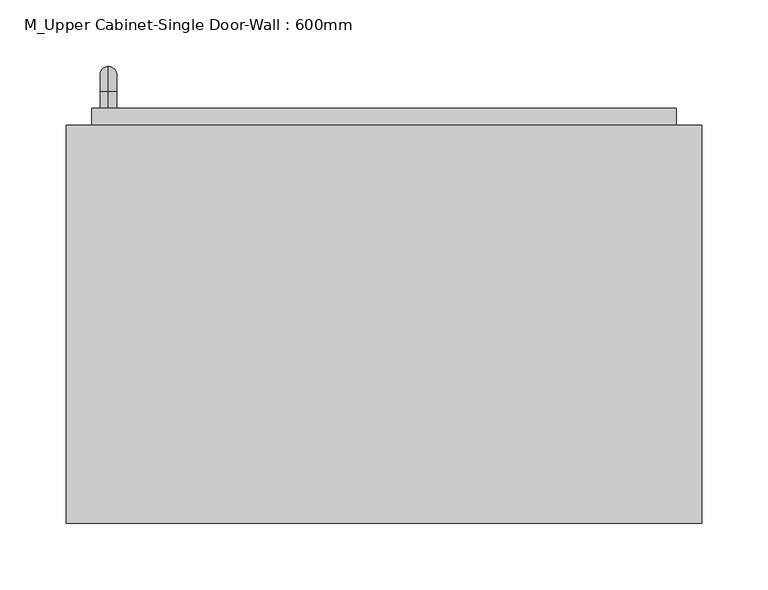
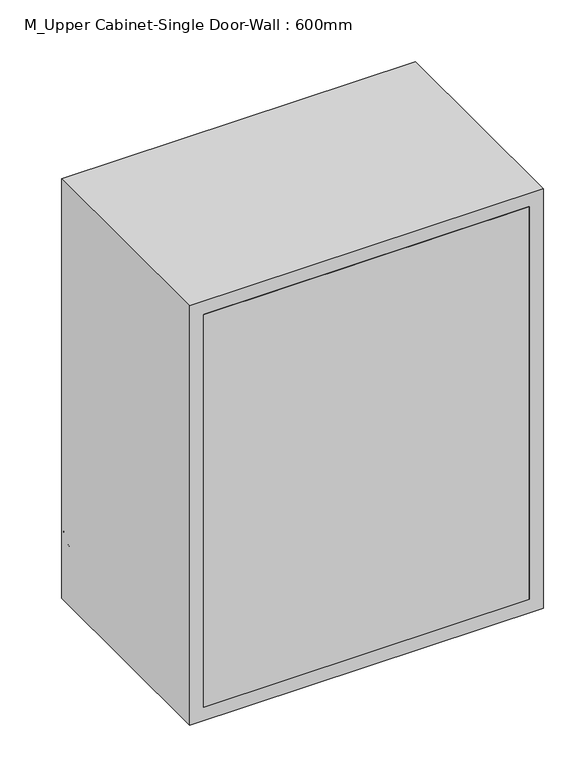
"""IFC4 building model written with IfcOpenShell, lengths in millimetres: furniture geometry, M_Upper Cabinet-Single Door-Wall : 600mm."""

from ifc_helpers import new_model, si_unit, point, frame, origin, place, context, project, spatial, polyline, circle_curve, ellipse_curve, trimmed, outline, extrude, source, transform, mapped, element, save
from ifc_brep_helpers import plane_surface, cylinder_surface, revolved_surface, advanced_brep


def m_upper_cabinet_single_door_wall_600mm_471400de(model_context):
    return source(origin(), model_context, "Body", "SolidModel", [
        advanced_brep(
        [(-177.9788372, 382.7, 1546.05), (-177.9788372, 382.7, 1558.75), (-177.9788372, 395.4, 1546.05), (-177.9788372, 395.4, 1558.75), (-177.9788372, 414.45, 1539.7), (-177.9788372, 401.75, 1539.7), (-177.9788372, 401.75, 1463.5), (-177.9788372, 414.45, 1463.5), (-177.9788372, 395.4, 1444.45), (-177.9788372, 395.4, 1457.15), (-177.9788372, 382.7, 1457.15), (-177.9788372, 382.7, 1444.45)],
        [
            (0, 1, circle_curve(frame((-177.9788372, 382.7, 1552.4), z_axis=(0.0, -1.0, 0.0), x_axis=(0.0, 0.0, 1.0)), 6.35)),
            (1, 0, circle_curve(frame((-177.9788372, 382.7, 1552.4), z_axis=(0.0, -1.0, 0.0), x_axis=(0.0, 0.0, 1.0)), 6.35)),
            (0, 2),
            (2, 3, circle_curve(frame((-177.9788372, 395.4, 1552.4), z_axis=(0.0, -1.0, 0.0), x_axis=(0.0, 0.0, 1.0)), 6.35)),
            (3, 1),
            (3, 2, circle_curve(frame((-177.9788372, 395.4, 1552.4), z_axis=(0.0, -1.0, 0.0), x_axis=(0.0, 0.0, 1.0)), 6.35)),
            (4, 3, circle_curve(frame((-177.9788372, 395.4, 1539.7), z_axis=(1.0, 0.0, 0.0), x_axis=(0.0, 0.0, 1.0)), 19.05)),
            (2, 5, circle_curve(frame((-177.9788372, 395.4, 1539.7), z_axis=(-1.0, 0.0, 0.0), x_axis=(0.0, 0.0, 1.0)), 6.35)),
            (5, 4, circle_curve(frame((-177.9788372, 408.1, 1539.7), z_axis=(0.0, 0.0, 1.0), x_axis=(0.0, 1.0, 0.0)), 6.35)),
            (4, 5, circle_curve(frame((-177.9788372, 408.1, 1539.7), z_axis=(0.0, 0.0, 1.0), x_axis=(0.0, 1.0, 0.0)), 6.35)),
            (5, 6),
            (6, 7, circle_curve(frame((-177.9788372, 408.1, 1463.5), z_axis=(0.0, 0.0, 1.0), x_axis=(0.0, 1.0, 0.0)), 6.35)),
            (7, 4),
            (7, 6, circle_curve(frame((-177.9788372, 408.1, 1463.5), z_axis=(0.0, 0.0, 1.0), x_axis=(0.0, 1.0, 0.0)), 6.35)),
            (8, 7, circle_curve(frame((-177.9788372, 395.4, 1463.5), z_axis=(1.0, 0.0, 0.0), x_axis=(0.0, 1.0, 0.0)), 19.05)),
            (6, 9, circle_curve(frame((-177.9788372, 395.4, 1463.5), z_axis=(-1.0, 0.0, 0.0), x_axis=(0.0, 1.0, 0.0)), 6.35)),
            (9, 8, circle_curve(frame((-177.9788372, 395.4, 1450.8), z_axis=(0.0, 1.0, 0.0), x_axis=(0.0, 0.0, -1.0)), 6.35)),
            (8, 9, circle_curve(frame((-177.9788372, 395.4, 1450.8), z_axis=(0.0, 1.0, 0.0), x_axis=(0.0, 0.0, -1.0)), 6.35)),
            (10, 11, circle_curve(frame((-177.9788372, 382.7, 1450.8), z_axis=(0.0, -1.0, 0.0), x_axis=(0.0, 0.0, -1.0)), 6.35)),
            (11, 10, circle_curve(frame((-177.9788372, 382.7, 1450.8), z_axis=(0.0, -1.0, 0.0), x_axis=(0.0, 0.0, -1.0)), 6.35)),
            (9, 10),
            (11, 8),
        ],
        [
            plane_surface(frame((-184.3288372, 382.7, 1552.4), z_axis=(0.0, -1.0, 0.0), x_axis=(0.0, 0.0, 1.0))),
            cylinder_surface(frame((-177.9788372, 382.7, 1552.4), z_axis=(0.0, -1.0, 0.0), x_axis=(0.0, 0.0, 1.0)), 6.35),
            revolved_surface(trimmed(ellipse_curve(frame((-177.9788372, 395.4, 1552.4), z_axis=(0.0, -1.0, 0.0), x_axis=(0.0, 0.0, 1.0)), 6.35, 6.35), [point((-177.9788372, 395.4, 1546.05))], [point((-177.9788372, 395.4, 1558.75))], True, "CARTESIAN"), (-177.9788372, 395.4, 1539.7), (-1.0, 0.0, 0.0)),
            revolved_surface(trimmed(ellipse_curve(frame((-177.9788372, 395.4, 1552.4), z_axis=(0.0, -1.0, 0.0), x_axis=(0.0, 0.0, 1.0)), 6.35, 6.35), [point((-177.9788372, 395.4, 1558.75))], [point((-177.9788372, 395.4, 1546.05))], True, "CARTESIAN"), (-177.9788372, 395.4, 1539.7), (-1.0, 0.0, 0.0)),
            cylinder_surface(frame((-177.9788372, 408.1, 1539.7), z_axis=(0.0, 0.0, 1.0), x_axis=(0.0, 1.0, 0.0)), 6.35),
            revolved_surface(trimmed(ellipse_curve(frame((-177.9788372, 408.1, 1463.5), z_axis=(0.0, 0.0, 1.0), x_axis=(0.0, 1.0, 0.0)), 6.35, 6.35), [point((-177.9788372, 401.75, 1463.5))], [point((-177.9788372, 414.45, 1463.5))], True, "CARTESIAN"), (-177.9788372, 395.4, 1463.5), (-1.0, 0.0, 0.0)),
            revolved_surface(trimmed(ellipse_curve(frame((-177.9788372, 408.1, 1463.5), z_axis=(0.0, 0.0, 1.0), x_axis=(0.0, 1.0, 0.0)), 6.35, 6.35), [point((-177.9788372, 414.45, 1463.5))], [point((-177.9788372, 401.75, 1463.5))], True, "CARTESIAN"), (-177.9788372, 395.4, 1463.5), (-1.0, 0.0, 0.0)),
            plane_surface(frame((-184.3288372, 382.7, 1450.8), z_axis=(0.0, -1.0, 0.0), x_axis=(0.0, 0.0, -1.0))),
            cylinder_surface(frame((-177.9788372, 395.4, 1450.8), z_axis=(0.0, 1.0, 0.0), x_axis=(0.0, 0.0, -1.0)), 6.35),
        ],
        [
            (0, [[1, 2]]),
            (1, [[-1, 3, 4, 5]]),
            (1, [[-2, -5, 6, -3]]),
            (2, [[7, -4, 8, 9]]),
            (3, [[-8, -6, -7, 10]]),
            (4, [[-9, 11, 12, 13]]),
            (4, [[-10, -13, 14, -11]]),
            (5, [[15, -12, 16, 17]]),
            (6, [[-16, -14, -15, 18]]),
            (7, [[19, 20]]),
            (8, [[-17, 21, -20, 22]]),
            (8, [[-18, -22, -19, -21]]),
        ],
    ),
        extrude(outline(polyline([(-190.6788372, 382.7), (250.2211628, 382.7), (250.2211628, 350.95), (-190.6788372, 350.95), (-190.6788372, 382.7)])), frame((0.0, 0.0, 1419.05), z_axis=(0.0, 0.0, 1.0), x_axis=(1.0, 0.0, 0.0)), (0.0, 0.0, 1.0), 561.9),
        extrude(outline(polyline([(250.2211628, 70.0), (-190.6788372, 70.0), (-190.6788372, 89.05), (250.2211628, 89.05), (250.2211628, 70.0)])), frame((0.0, 0.0, 1419.05), z_axis=(0.0, 0.0, 1.0), x_axis=(1.0, 0.0, 0.0)), (0.0, 0.0, 1.0), 561.9),
        extrude(outline(polyline([(2000.0, -209.7288372), (1400.0, -209.7288372), (1400.0, 269.2711628), (2000.0, 269.2711628), (2000.0, -209.7288372)]), holes=[polyline([(1980.95, -190.6788372), (1980.95, 250.2211628), (1419.05, 250.2211628), (1419.05, -190.6788372), (1980.95, -190.6788372)])]), frame((0.0, 70.0, 0.0), z_axis=(0.0, 1.0, 0.0), x_axis=(0.0, 0.0, 1.0)), (0.0, 0.0, 1.0), 300.0),
    ])


if __name__ == "__main__":
    model = new_model("IFC4")
    model_context = context("Model", 3, world=origin())
    ifc_project = project(units=[si_unit("LENGTHUNIT", "METRE", prefix="MILLI")], contexts=[model_context])
    site = spatial("IfcSite", under=ifc_project)
    building = spatial("IfcBuilding", under=site)
    placement = place(None, origin())
    m_upper_cabinet_single_door_wall_600mm_shape = m_upper_cabinet_single_door_wall_600mm_471400de(model_context)
    element("IfcFurniture", 1, ObjectType="M_Upper Cabinet-Single Door-Wall : 600mm", at=placement, inside=building, context=model_context, shape_type="MappedRepresentation", body=[
        mapped(m_upper_cabinet_single_door_wall_600mm_shape, transform((0.0, 0.0, 0.0), x_axis=(1.0, 0.0, 0.0), y_axis=(0.0, 1.0, 0.0), z_axis=(0.0, 0.0, 1.0))),
    ])
    save(model, "model.ifc")
